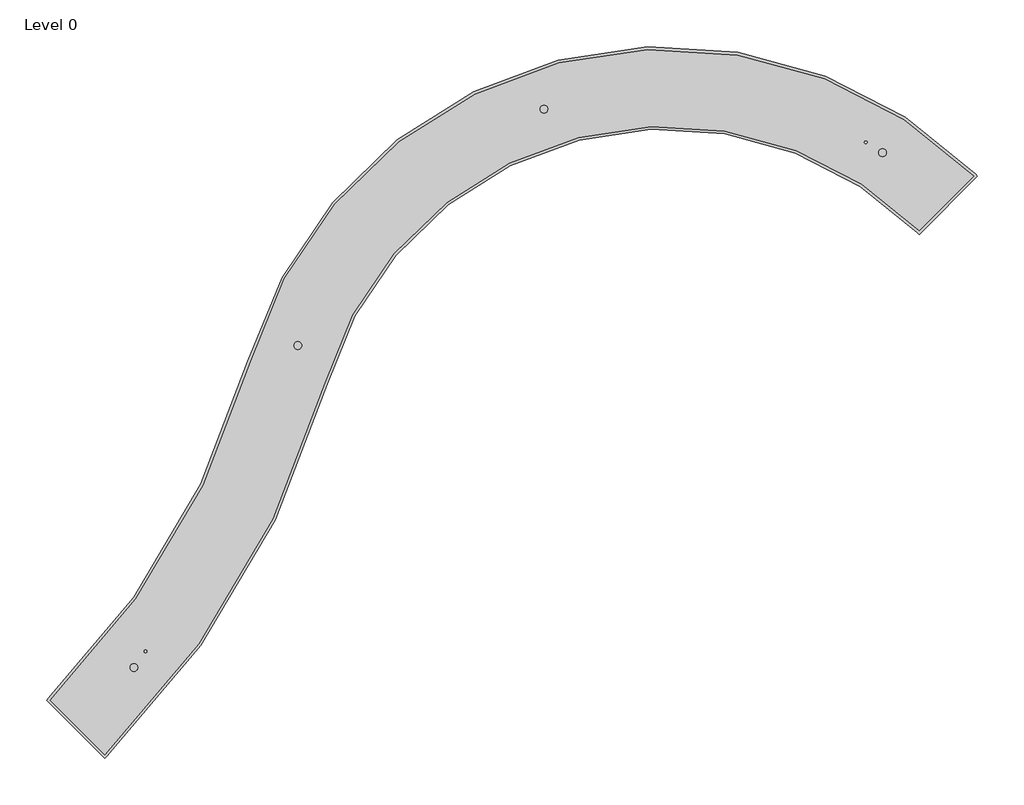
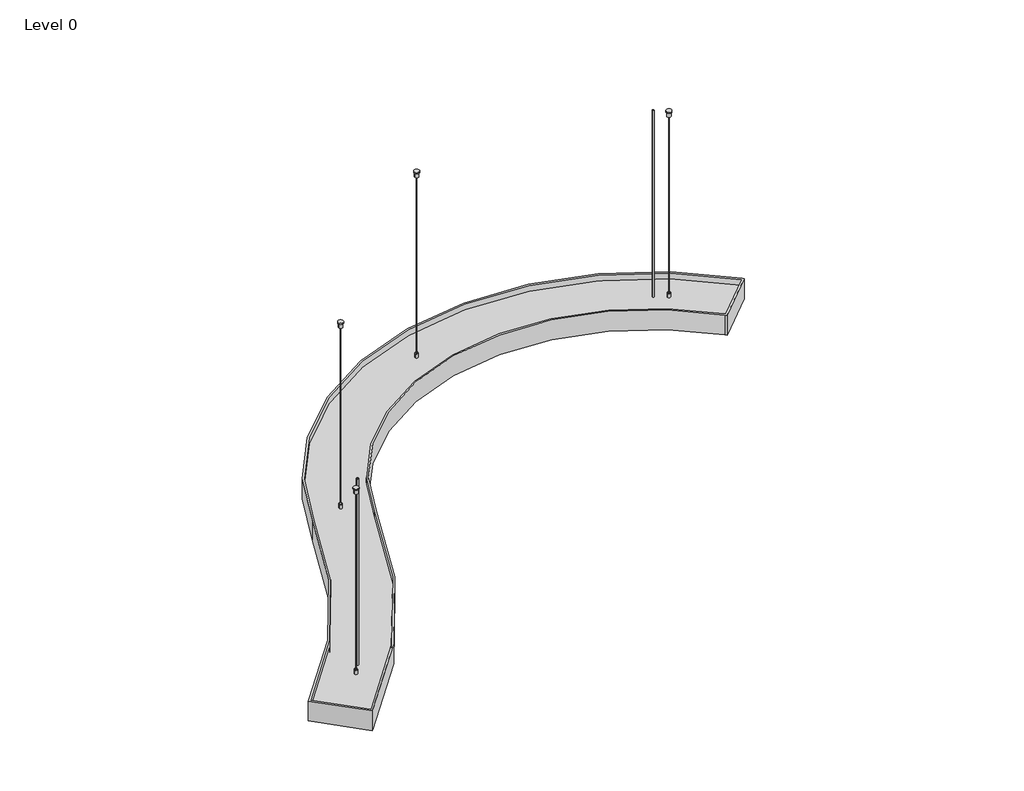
# One storey: 1 light fixture.
"""IFC4 building model written with IfcOpenShell, lengths in millimetres."""

import ifcopenshell
import ifcopenshell.guid

model = None  # the IFC model being written
_history = None  # IfcOwnerHistory: only IFC2X3 demands one
_inside = {}  # id of a spatial element -> (the spatial element, [elements in it])
_under = {}  # id of a project, library or spatial element -> (it, [spatial elements below it])
_declared = {}  # id of a project -> (the project, [libraries it declares])
_typed = {}  # id of a type object -> (the type object, [elements of that type])
_made_of = {}  # id of a material, layer set ... -> (it, [elements and type objects made of it])


def new_model(schema):
    """Start an empty IFC model of exactly this schema.

    Asked for "IFC4X3", IfcOpenShell would pick the latest addendum, in which some entities
    have other attributes; the version numbers below select the first issue.
    IFC2X3 requires an IfcOwnerHistory on every rooted entity: one is made here for all.
    """
    global model, _history
    if schema == "IFC4X3":
        model = ifcopenshell.file(schema_version=(4, 3, 0, 0))
    else:
        model = ifcopenshell.file(schema=schema)
    _inside.clear()
    _under.clear()
    _declared.clear()
    _typed.clear()
    _made_of.clear()
    _history = None
    if model.schema == "IFC2X3":
        org = make("IfcOrganization", Name="unknown")
        user = make(
            "IfcPersonAndOrganization",
            ThePerson=make("IfcPerson", FamilyName="unknown"),
            TheOrganization=org,
        )
        app = make(
            "IfcApplication",
            ApplicationDeveloper=org,
            Version="unknown",
            ApplicationFullName="unknown",
            ApplicationIdentifier="unknown",
        )
        _history = make(
            "IfcOwnerHistory",
            OwningUser=user,
            OwningApplication=app,
            ChangeAction="ADDED",
            CreationDate=0,
        )
    return model


def make(cls, **values):
    """One entity of the class cls with the attributes given. An attribute that is None is left unset."""
    return model.create_entity(
        cls, **{name: value for name, value in values.items() if value is not None}
    )


def rooted(cls, **values):
    """An entity with a GlobalId (a new one), such as an element, a storey or a relation."""
    return make(cls, GlobalId=ifcopenshell.guid.new(), OwnerHistory=_history, **values)


def si_unit(unit_type, name, prefix=None):
    """IfcSIUnit, for example si_unit("LENGTHUNIT", "METRE", prefix="MILLI")."""
    return make("IfcSIUnit", UnitType=unit_type, Prefix=prefix, Name=name)


def assignment(units):
    """IfcUnitAssignment: the units of a project."""
    return None if units is None else make("IfcUnitAssignment", Units=units)


def point(xyz):
    """IfcCartesianPoint."""
    return None if xyz is None else make("IfcCartesianPoint", Coordinates=xyz)


def direction(xyz):
    """IfcDirection."""
    return None if xyz is None else make("IfcDirection", DirectionRatios=xyz)


def frame(location, z_axis=None, x_axis=None):
    """IfcAxis2Placement3D, a coordinate frame: its origin and axes. An axis left out is left unset."""
    return make(
        "IfcAxis2Placement3D",
        Location=point(location),
        Axis=direction(z_axis),
        RefDirection=direction(x_axis),
    )


def frame_2d(location, x_axis=None):
    """IfcAxis2Placement2D, a coordinate frame in the plane: its origin and x axis."""
    return make(
        "IfcAxis2Placement2D", Location=point(location), RefDirection=direction(x_axis)
    )


def origin():
    """The frame at (0, 0, 0) with its axes left unset."""
    return frame((0.0, 0.0, 0.0))


def origin_with_axes():
    """The frame at (0, 0, 0) with the z axis (0, 0, 1) and the x axis (1, 0, 0) written out."""
    return frame((0.0, 0.0, 0.0), z_axis=(0.0, 0.0, 1.0), x_axis=(1.0, 0.0, 0.0))


def place(relative_to, where):
    """IfcLocalPlacement: puts the frame where relative to a parent placement (None: the world)."""
    return make(
        "IfcLocalPlacement", PlacementRelTo=relative_to, RelativePlacement=where
    )


def context(
    kind, dimensions, precision=None, world=None, true_north=None, identifier=None
):
    """IfcGeometricRepresentationContext, for example the 3D "Model" context."""
    return make(
        "IfcGeometricRepresentationContext",
        ContextIdentifier=identifier,
        ContextType=kind,
        CoordinateSpaceDimension=dimensions,
        Precision=precision,
        WorldCoordinateSystem=world,
        TrueNorth=true_north,
    )


def project(units=None, contexts=None):
    """IfcProject with its units and contexts."""
    return rooted(
        "IfcProject",
        Name="project",
        RepresentationContexts=contexts,
        UnitsInContext=assignment(units),
    )


def spatial(cls, under=None, at=None, **own):
    """A site, building, storey or space (cls), placed at a placement, below another one or the project."""
    s = rooted(cls, ObjectPlacement=at, **own)
    if under is not None:
        _under.setdefault(under.id(), (under, []))[1].append(s)
    return s


def polyline(points):
    """IfcPolyline through the points."""
    return make("IfcPolyline", Points=[point(p) for p in points])


def circle_curve(where, radius):
    """IfcCircle in the frame where."""
    return make("IfcCircle", Position=where, Radius=radius)


def trimmed(basis, trim1, trim2, sense, master):
    """IfcTrimmedCurve: the piece of a basis curve between two trims."""
    return make(
        "IfcTrimmedCurve",
        BasisCurve=basis,
        Trim1=trim1,
        Trim2=trim2,
        SenseAgreement=sense,
        MasterRepresentation=master,
    )


def segment(curve, same_sense, transition):
    """IfcCompositeCurveSegment."""
    return make(
        "IfcCompositeCurveSegment",
        Transition=transition,
        SameSense=same_sense,
        ParentCurve=curve,
    )


def composite_curve(segments, self_intersect=None):
    """IfcCompositeCurve: segments joined end to end."""
    return make("IfcCompositeCurve", Segments=segments, SelfIntersect=self_intersect)


def outline(outer, holes=None, kind="AREA"):
    """IfcArbitraryClosedProfileDef: a profile drawn as a closed curve; with holes, ...WithVoids."""
    if holes is None:
        return make("IfcArbitraryClosedProfileDef", ProfileType=kind, OuterCurve=outer)
    return make(
        "IfcArbitraryProfileDefWithVoids",
        ProfileType=kind,
        OuterCurve=outer,
        InnerCurves=holes,
    )


def extrude(swept, where, along, depth):
    """IfcExtrudedAreaSolid: the profile swept, set in the frame where, extruded along a direction by depth."""
    return make(
        "IfcExtrudedAreaSolid",
        SweptArea=swept,
        Position=where,
        ExtrudedDirection=direction(along),
        Depth=depth,
    )


def shape(context_of_items, identifier, shape_type, items):
    """IfcShapeRepresentation: the items that make up one representation, for example the "Body"."""
    return make(
        "IfcShapeRepresentation",
        ContextOfItems=context_of_items,
        RepresentationIdentifier=identifier,
        RepresentationType=shape_type,
        Items=items,
    )


def source(mapping_origin, context_of_items, identifier, shape_type, items):
    """IfcRepresentationMap: a shape defined once, which mapped items show again and again."""
    return make(
        "IfcRepresentationMap",
        MappingOrigin=mapping_origin,
        MappedRepresentation=shape(context_of_items, identifier, shape_type, items),
    )


def transform(
    local_origin,
    x_axis=None,
    y_axis=None,
    z_axis=None,
    scale=None,
    scale2=None,
    scale3=None,
    uniform=True,
):
    """IfcCartesianTransformationOperator3D, or its non-uniform kind. x_axis, y_axis, z_axis: its Axis1, 2, 3."""
    if uniform:
        return make(
            "IfcCartesianTransformationOperator3D",
            Axis1=direction(x_axis),
            Axis2=direction(y_axis),
            LocalOrigin=point(local_origin),
            Scale=scale,
            Axis3=direction(z_axis),
        )
    return make(
        "IfcCartesianTransformationOperator3DnonUniform",
        Axis1=direction(x_axis),
        Axis2=direction(y_axis),
        LocalOrigin=point(local_origin),
        Scale=scale,
        Axis3=direction(z_axis),
        Scale2=scale2,
        Scale3=scale3,
    )


def mapped(mapping_source, mapping_target):
    """IfcMappedItem: shows the shape of a source again, moved by a transform."""
    return make(
        "IfcMappedItem", MappingSource=mapping_source, MappingTarget=mapping_target
    )


def made_of(thing, what):
    """Note that an element or type object is made of a material, layer set ...; save() writes the relation."""
    if what is not None:
        _made_of.setdefault(what.id(), (what, []))[1].append(thing)
    return thing


def element(
    cls,
    number,
    at=None,
    inside=None,
    cuts=None,
    type_object=None,
    material=None,
    context=None,
    identifier="Body",
    shape_type=None,
    held_by="IfcProductDefinitionShape",
    body=None,
    shapes=None,
    **own,
):
    """One element of the class cls, such as IfcWall. Its Tag is "e" and its number.

    at: its placement. inside: the storey or other place that contains it. cuts: it is an
    opening in that element (IfcRelVoidsElement). A single representation is given by context,
    identifier, shape_type and body (its items); several are given by shapes. held_by: the class
    of the entity that holds the representations. save() writes the other relations.
    """
    e = rooted(cls, Tag="e%d" % number, ObjectPlacement=at, **own)
    if body is not None:
        shapes = [shape(context, identifier, shape_type, body)]
    if shapes is not None:
        e.Representation = make(held_by, Representations=shapes)
    if inside is not None:
        _inside.setdefault(inside.id(), (inside, []))[1].append(e)
    if cuts is not None:
        rooted(
            "IfcRelVoidsElement", RelatingBuildingElement=cuts, RelatedOpeningElement=e
        )
    if type_object is not None:
        _typed.setdefault(type_object.id(), (type_object, []))[1].append(e)
    return made_of(e, material)


def aggregate(whole, parts):
    """IfcRelAggregates: a whole, such as a stair, and the parts it consists of."""
    return rooted("IfcRelAggregates", RelatingObject=whole, RelatedObjects=parts)


def save(model, path):
    """Write the relations noted so far, then the file.

    IfcRelAggregates (storeys below a building ...), IfcRelContainedInSpatialStructure (elements
    in a storey), IfcRelDefinesByType, IfcRelAssociatesMaterial and IfcRelDeclares: one each for
    every whole, place, type object, material and project.
    """
    for whole, parts in _under.values():
        aggregate(whole, parts)
    for where, things in _inside.values():
        rooted(
            "IfcRelContainedInSpatialStructure",
            RelatedElements=things,
            RelatingStructure=where,
        )
    for kind, things in _typed.values():
        rooted("IfcRelDefinesByType", RelatedObjects=things, RelatingType=kind)
    for what, things in _made_of.values():
        rooted("IfcRelAssociatesMaterial", RelatedObjects=things, RelatingMaterial=what)
    for by, libraries in _declared.values():
        rooted("IfcRelDeclares", RelatingContext=by, RelatedDefinitions=libraries)
    model.write(path)


def silver_anodized_3000_k_5960_lm_fe325a2c(model_context):
    return source(origin(), model_context, "Body", "SweptSolid", [
        extrude(outline(composite_curve([segment(trimmed(circle_curve(frame_2d((672.9591709, -453.7760206)), 1.75), [point((674.7091709, -453.7760206))], [point((671.2091709, -453.7760206))], False, "CARTESIAN"), True, "CONTINUOUS"), segment(trimmed(circle_curve(frame_2d((672.9591709, -453.7760206)), 1.75), [point((671.2091709, -453.7760206))], [point((674.7091709, -453.7760206))], False, "CARTESIAN"), True, "CONTINUOUS")], self_intersect=False)), frame((0.0, 0.0, 500.5), z_axis=(0.0, 0.0, 1.0), x_axis=(1.0, 0.0, 0.0)), (0.0, 0.0, 1.0), 3.5),
        extrude(outline(composite_curve([segment(trimmed(circle_curve(frame_2d((58.0324122, -532.928288)), 1.75), [point((59.7824122, -532.928288))], [point((56.2824122, -532.928288))], False, "CARTESIAN"), True, "CONTINUOUS"), segment(trimmed(circle_curve(frame_2d((58.0324122, -532.928288)), 1.75), [point((56.2824122, -532.928288))], [point((59.7824122, -532.928288))], False, "CARTESIAN"), True, "CONTINUOUS")], self_intersect=False)), frame((0.0, 0.0, 500.5), z_axis=(0.0, 0.0, 1.0), x_axis=(1.0, 0.0, 0.0)), (0.0, 0.0, 1.0), 3.5),
        extrude(outline(composite_curve([segment(trimmed(circle_curve(frame_2d((-389.0451569, -103.1934485)), 1.75), [point((-387.2951569, -103.1934485))], [point((-390.7951569, -103.1934485))], False, "CARTESIAN"), True, "CONTINUOUS"), segment(trimmed(circle_curve(frame_2d((-389.0451569, -103.1934485)), 1.75), [point((-390.7951569, -103.1934485))], [point((-387.2951569, -103.1934485))], False, "CARTESIAN"), True, "CONTINUOUS")], self_intersect=False)), frame((0.0, 0.0, 500.5), z_axis=(0.0, 0.0, 1.0), x_axis=(1.0, 0.0, 0.0)), (0.0, 0.0, 1.0), 3.5),
        extrude(outline(composite_curve([segment(trimmed(circle_curve(frame_2d((-686.7353542, 481.8418012)), 1.75), [point((-684.9853542, 481.8418012))], [point((-688.4853542, 481.8418012))], False, "CARTESIAN"), True, "CONTINUOUS"), segment(trimmed(circle_curve(frame_2d((-686.7353542, 481.8418012)), 1.75), [point((-688.4853542, 481.8418012))], [point((-684.9853542, 481.8418012))], False, "CARTESIAN"), True, "CONTINUOUS")], self_intersect=False)), frame((0.0, 0.0, 500.5), z_axis=(0.0, 0.0, 1.0), x_axis=(1.0, 0.0, 0.0)), (0.0, 0.0, 1.0), 3.5),
        extrude(outline(composite_curve([segment(trimmed(circle_curve(frame_2d((672.9591709, -453.7760206)), 5.0), [point((677.9591709, -453.7760206))], [point((667.9591709, -453.7760206))], False, "CARTESIAN"), True, "CONTINUOUS"), segment(trimmed(circle_curve(frame_2d((672.9591709, -453.7760206)), 5.0), [point((667.9591709, -453.7760206))], [point((677.9591709, -453.7760206))], False, "CARTESIAN"), True, "CONTINUOUS")], self_intersect=False)), frame((0.0, 0.0, 3.0), z_axis=(0.0, 0.0, 1.0), x_axis=(1.0, 0.0, 0.0)), (0.0, 0.0, 1.0), 12.0),
        extrude(outline(composite_curve([segment(trimmed(circle_curve(frame_2d((58.0324122, -532.928288)), 5.0), [point((63.0324122, -532.928288))], [point((53.0324122, -532.928288))], False, "CARTESIAN"), True, "CONTINUOUS"), segment(trimmed(circle_curve(frame_2d((58.0324122, -532.928288)), 5.0), [point((53.0324122, -532.928288))], [point((63.0324122, -532.928288))], False, "CARTESIAN"), True, "CONTINUOUS")], self_intersect=False)), frame((0.0, 0.0, 3.0), z_axis=(0.0, 0.0, 1.0), x_axis=(1.0, 0.0, 0.0)), (0.0, 0.0, 1.0), 12.0),
        extrude(outline(composite_curve([segment(trimmed(circle_curve(frame_2d((-389.0451569, -103.1934485)), 5.0), [point((-384.0451569, -103.1934485))], [point((-394.0451569, -103.1934485))], False, "CARTESIAN"), True, "CONTINUOUS"), segment(trimmed(circle_curve(frame_2d((-389.0451569, -103.1934485)), 5.0), [point((-394.0451569, -103.1934485))], [point((-384.0451569, -103.1934485))], False, "CARTESIAN"), True, "CONTINUOUS")], self_intersect=False)), frame((0.0, 0.0, 3.0), z_axis=(0.0, 0.0, 1.0), x_axis=(1.0, 0.0, 0.0)), (0.0, 0.0, 1.0), 12.0),
        extrude(outline(composite_curve([segment(trimmed(circle_curve(frame_2d((-686.7353542, 481.8418012)), 5.0), [point((-681.7353542, 481.8418012))], [point((-691.7353542, 481.8418012))], False, "CARTESIAN"), True, "CONTINUOUS"), segment(trimmed(circle_curve(frame_2d((-686.7353542, 481.8418012)), 5.0), [point((-691.7353542, 481.8418012))], [point((-681.7353542, 481.8418012))], False, "CARTESIAN"), True, "CONTINUOUS")], self_intersect=False)), frame((0.0, 0.0, 3.0), z_axis=(0.0, 0.0, 1.0), x_axis=(1.0, 0.0, 0.0)), (0.0, 0.0, 1.0), 12.0),
        extrude(outline(composite_curve([segment(trimmed(circle_curve(frame_2d((642.6195188, -472.545118)), 2.5), [point((645.1195188, -472.545118))], [point((640.1195188, -472.545118))], False, "CARTESIAN"), True, "CONTINUOUS"), segment(trimmed(circle_curve(frame_2d((642.6195188, -472.545118)), 2.5), [point((640.1195188, -472.545118))], [point((645.1195188, -472.545118))], False, "CARTESIAN"), True, "CONTINUOUS")], self_intersect=False)), origin_with_axes(), (0.0, 0.0, 1.0), 516.0),
        extrude(outline(composite_curve([segment(trimmed(circle_curve(frame_2d((-665.6709543, 452.5331137)), 2.5), [point((-663.1709543, 452.5331137))], [point((-668.1709543, 452.5331137))], False, "CARTESIAN"), True, "CONTINUOUS"), segment(trimmed(circle_curve(frame_2d((-665.6709543, 452.5331137)), 2.5), [point((-668.1709543, 452.5331137))], [point((-663.1709543, 452.5331137))], False, "CARTESIAN"), True, "CONTINUOUS")], self_intersect=False)), origin_with_axes(), (0.0, 0.0, 1.0), 516.0),
        extrude(outline(composite_curve([segment(polyline([(-838.3688522, 541.0675454), (-739.3739028, 640.0624948)]), True, "CONTINUOUS"), segment(trimmed(circle_curve(frame_2d((-1853.9001753, -474.4637777)), 1576.1781702), [point((-739.3739028, 640.0624948))], [point((-340.279061, -34.8176171))], False, "CARTESIAN"), True, "CONTINUOUS"), segment(trimmed(circle_curve(frame_2d((281.522262, 145.7907014)), 647.5), [point((-340.279061, -34.8176171))], [point((739.3739028, -312.0609394))], True, "CARTESIAN"), True, "CONTINUOUS"), segment(polyline([(739.3739028, -312.0609394), (838.3688522, -411.0558887)]), True, "CONTINUOUS"), segment(trimmed(circle_curve(frame_2d((281.522262, 145.7907014)), 787.5), [point((838.3688522, -411.0558887))], [point((-474.7225903, -73.8680643))], False, "CARTESIAN"), True, "CONTINUOUS"), segment(trimmed(circle_curve(frame_2d((-1853.9001753, -474.4637777)), 1436.1781702), [point((-474.7225903, -73.8680643))], [point((-838.3688522, 541.0675454))], True, "CARTESIAN"), True, "CONTINUOUS")], self_intersect=False)), frame((0.0, 0.0, 516.0), z_axis=(0.0, 0.0, 1.0), x_axis=(1.0, 0.0, 0.0)), (0.0, 0.0, 1.0), 2.0),
        extrude(outline(composite_curve([segment(polyline([(-838.3688522, 541.0675454), (-739.3739028, 640.0624948)]), True, "CONTINUOUS"), segment(trimmed(circle_curve(frame_2d((-1853.9001753, -474.4637777)), 1576.1781702), [point((-739.3739028, 640.0624948))], [point((-340.279061, -34.8176171))], False, "CARTESIAN"), True, "CONTINUOUS"), segment(trimmed(circle_curve(frame_2d((281.522262, 145.7907014)), 647.5), [point((-340.279061, -34.8176171))], [point((739.3739028, -312.0609394))], True, "CARTESIAN"), True, "CONTINUOUS"), segment(polyline([(739.3739028, -312.0609394), (838.3688522, -411.0558887)]), True, "CONTINUOUS"), segment(trimmed(circle_curve(frame_2d((281.522262, 145.7907014)), 787.5), [point((838.3688522, -411.0558887))], [point((-474.7225903, -73.8680643))], False, "CARTESIAN"), True, "CONTINUOUS"), segment(trimmed(circle_curve(frame_2d((-1853.9001753, -474.4637777)), 1436.1781702), [point((-474.7225903, -73.8680643))], [point((-838.3688522, 541.0675454))], True, "CARTESIAN"), True, "CONTINUOUS")], self_intersect=False)), frame((0.0, 0.0, 551.0), z_axis=(0.0, 0.0, 1.0), x_axis=(1.0, 0.0, 0.0)), (0.0, 0.0, 1.0), 2.0),
        extrude(outline(composite_curve([segment(polyline([(-841.9043861, 537.5320115), (-845.43992, 541.0675454), (-739.3739028, 647.1335626), (-735.8383689, 643.5980287)]), True, "CONTINUOUS"), segment(trimmed(circle_curve(frame_2d((-1853.9001753, -474.4637777)), 1581.1781702), [point((-735.8383689, 643.5980287))], [point((-335.4775064, -33.4229582))], False, "CARTESIAN"), True, "CONTINUOUS"), segment(trimmed(circle_curve(frame_2d((281.522262, 145.7907014)), 642.5), [point((-335.4775064, -33.4229582))], [point((735.8383689, -308.5254055))], True, "CARTESIAN"), True, "CONTINUOUS"), segment(polyline([(735.8383689, -308.5254055), (739.3739028, -304.9898716), (845.43992, -411.0558887), (841.9043861, -414.5914226)]), True, "CONTINUOUS"), segment(trimmed(circle_curve(frame_2d((281.522262, 145.7907014)), 792.5), [point((841.9043861, -414.5914226))], [point((-479.5241449, -75.2627231))], False, "CARTESIAN"), True, "CONTINUOUS"), segment(trimmed(circle_curve(frame_2d((-1853.9001753, -474.4637777)), 1431.1781702), [point((-479.5241449, -75.2627231))], [point((-841.9043861, 537.5320115))], True, "CARTESIAN"), True, "CONTINUOUS")], self_intersect=False), holes=[composite_curve([segment(polyline([(-739.3739028, 640.0624948), (-838.3688522, 541.0675454)]), True, "CONTINUOUS"), segment(trimmed(circle_curve(frame_2d((-1853.9001753, -474.4637777)), 1436.1781702), [point((-838.3688522, 541.0675454))], [point((-474.7225903, -73.8680643))], False, "CARTESIAN"), True, "CONTINUOUS"), segment(trimmed(circle_curve(frame_2d((281.522262, 145.7907014)), 787.5), [point((-474.7225903, -73.8680643))], [point((838.3688522, -411.0558887))], True, "CARTESIAN"), True, "CONTINUOUS"), segment(polyline([(838.3688522, -411.0558887), (739.3739028, -312.0609394)]), True, "CONTINUOUS"), segment(trimmed(circle_curve(frame_2d((281.522262, 145.7907014)), 647.5), [point((739.3739028, -312.0609394))], [point((-340.279061, -34.8176171))], False, "CARTESIAN"), True, "CONTINUOUS"), segment(trimmed(circle_curve(frame_2d((-1853.9001753, -474.4637777)), 1576.1781702), [point((-340.279061, -34.8176171))], [point((-739.3739028, 640.0624948))], True, "CARTESIAN"), True, "CONTINUOUS")], self_intersect=False)]), frame((0.0, 0.0, 500.0), z_axis=(0.0, 0.0, 1.0), x_axis=(1.0, 0.0, 0.0)), (0.0, 0.0, 1.0), 55.0),
        extrude(outline(composite_curve([segment(trimmed(circle_curve(frame_2d((672.9591709, -453.7760206)), 0.5), [point((673.4591709, -453.7760206))], [point((672.4591709, -453.7760206))], False, "CARTESIAN"), True, "CONTINUOUS"), segment(trimmed(circle_curve(frame_2d((672.9591709, -453.7760206)), 0.5), [point((672.4591709, -453.7760206))], [point((673.4591709, -453.7760206))], False, "CARTESIAN"), True, "CONTINUOUS")], self_intersect=False)), frame((0.0, 0.0, 15.0), z_axis=(0.0, 0.0, 1.0), x_axis=(1.0, 0.0, 0.0)), (0.0, 0.0, 1.0), 485.5),
        extrude(outline(composite_curve([segment(trimmed(circle_curve(frame_2d((58.0324122, -532.928288)), 0.5), [point((58.5324122, -532.928288))], [point((57.5324122, -532.928288))], False, "CARTESIAN"), True, "CONTINUOUS"), segment(trimmed(circle_curve(frame_2d((58.0324122, -532.928288)), 0.5), [point((57.5324122, -532.928288))], [point((58.5324122, -532.928288))], False, "CARTESIAN"), True, "CONTINUOUS")], self_intersect=False)), frame((0.0, 0.0, 15.0), z_axis=(0.0, 0.0, 1.0), x_axis=(1.0, 0.0, 0.0)), (0.0, 0.0, 1.0), 485.5),
        extrude(outline(composite_curve([segment(trimmed(circle_curve(frame_2d((-389.0451569, -103.1934485)), 0.5), [point((-388.5451569, -103.1934485))], [point((-389.5451569, -103.1934485))], False, "CARTESIAN"), True, "CONTINUOUS"), segment(trimmed(circle_curve(frame_2d((-389.0451569, -103.1934485)), 0.5), [point((-389.5451569, -103.1934485))], [point((-388.5451569, -103.1934485))], False, "CARTESIAN"), True, "CONTINUOUS")], self_intersect=False)), frame((0.0, 0.0, 15.0), z_axis=(0.0, 0.0, 1.0), x_axis=(1.0, 0.0, 0.0)), (0.0, 0.0, 1.0), 485.5),
        extrude(outline(composite_curve([segment(trimmed(circle_curve(frame_2d((-686.7353542, 481.8418012)), 0.5), [point((-686.2353542, 481.8418012))], [point((-687.2353542, 481.8418012))], False, "CARTESIAN"), True, "CONTINUOUS"), segment(trimmed(circle_curve(frame_2d((-686.7353542, 481.8418012)), 0.5), [point((-687.2353542, 481.8418012))], [point((-686.2353542, 481.8418012))], False, "CARTESIAN"), True, "CONTINUOUS")], self_intersect=False)), frame((0.0, 0.0, 15.0), z_axis=(0.0, 0.0, 1.0), x_axis=(1.0, 0.0, 0.0)), (0.0, 0.0, 1.0), 485.5),
        extrude(outline(composite_curve([segment(trimmed(circle_curve(frame_2d((-686.7353542, 481.8418012)), 4.0), [point((-682.7353542, 481.8418012))], [point((-690.7353542, 481.8418012))], False, "CARTESIAN"), True, "CONTINUOUS"), segment(trimmed(circle_curve(frame_2d((-686.7353542, 481.8418012)), 4.0), [point((-690.7353542, 481.8418012))], [point((-682.7353542, 481.8418012))], False, "CARTESIAN"), True, "CONTINUOUS")], self_intersect=False)), frame((0.0, 0.0, 504.0), z_axis=(0.0, 0.0, 1.0), x_axis=(1.0, 0.0, 0.0)), (0.0, 0.0, 1.0), 12.0),
        extrude(outline(composite_curve([segment(trimmed(circle_curve(frame_2d((-389.0451569, -103.1934485)), 4.0), [point((-385.0451569, -103.1934485))], [point((-393.0451569, -103.1934485))], False, "CARTESIAN"), True, "CONTINUOUS"), segment(trimmed(circle_curve(frame_2d((-389.0451569, -103.1934485)), 4.0), [point((-393.0451569, -103.1934485))], [point((-385.0451569, -103.1934485))], False, "CARTESIAN"), True, "CONTINUOUS")], self_intersect=False)), frame((0.0, 0.0, 504.0), z_axis=(0.0, 0.0, 1.0), x_axis=(1.0, 0.0, 0.0)), (0.0, 0.0, 1.0), 12.0),
        extrude(outline(composite_curve([segment(trimmed(circle_curve(frame_2d((58.0324122, -532.928288)), 4.0), [point((62.0324122, -532.928288))], [point((54.0324122, -532.928288))], False, "CARTESIAN"), True, "CONTINUOUS"), segment(trimmed(circle_curve(frame_2d((58.0324122, -532.928288)), 4.0), [point((54.0324122, -532.928288))], [point((62.0324122, -532.928288))], False, "CARTESIAN"), True, "CONTINUOUS")], self_intersect=False)), frame((0.0, 0.0, 504.0), z_axis=(0.0, 0.0, 1.0), x_axis=(1.0, 0.0, 0.0)), (0.0, 0.0, 1.0), 12.0),
        extrude(outline(composite_curve([segment(trimmed(circle_curve(frame_2d((672.9591709, -453.7760206)), 4.0), [point((676.9591709, -453.7760206))], [point((668.9591709, -453.7760206))], False, "CARTESIAN"), True, "CONTINUOUS"), segment(trimmed(circle_curve(frame_2d((672.9591709, -453.7760206)), 4.0), [point((668.9591709, -453.7760206))], [point((676.9591709, -453.7760206))], False, "CARTESIAN"), True, "CONTINUOUS")], self_intersect=False)), frame((0.0, 0.0, 504.0), z_axis=(0.0, 0.0, 1.0), x_axis=(1.0, 0.0, 0.0)), (0.0, 0.0, 1.0), 12.0),
        extrude(outline(composite_curve([segment(trimmed(circle_curve(frame_2d((672.9591709, -453.7760206)), 7.0), [point((679.9591709, -453.7760206))], [point((665.9591709, -453.7760206))], False, "CARTESIAN"), True, "CONTINUOUS"), segment(trimmed(circle_curve(frame_2d((672.9591709, -453.7760206)), 7.0), [point((665.9591709, -453.7760206))], [point((679.9591709, -453.7760206))], False, "CARTESIAN"), True, "CONTINUOUS")], self_intersect=False)), origin_with_axes(), (0.0, 0.0, 1.0), 3.0),
        extrude(outline(composite_curve([segment(trimmed(circle_curve(frame_2d((58.0324122, -532.928288)), 7.0), [point((65.0324122, -532.928288))], [point((51.0324122, -532.928288))], False, "CARTESIAN"), True, "CONTINUOUS"), segment(trimmed(circle_curve(frame_2d((58.0324122, -532.928288)), 7.0), [point((51.0324122, -532.928288))], [point((65.0324122, -532.928288))], False, "CARTESIAN"), True, "CONTINUOUS")], self_intersect=False)), origin_with_axes(), (0.0, 0.0, 1.0), 3.0),
        extrude(outline(composite_curve([segment(trimmed(circle_curve(frame_2d((-389.0451569, -103.1934485)), 7.0), [point((-382.0451569, -103.1934485))], [point((-396.0451569, -103.1934485))], False, "CARTESIAN"), True, "CONTINUOUS"), segment(trimmed(circle_curve(frame_2d((-389.0451569, -103.1934485)), 7.0), [point((-396.0451569, -103.1934485))], [point((-382.0451569, -103.1934485))], False, "CARTESIAN"), True, "CONTINUOUS")], self_intersect=False)), origin_with_axes(), (0.0, 0.0, 1.0), 3.0),
        extrude(outline(composite_curve([segment(trimmed(circle_curve(frame_2d((-686.7353542, 481.8418012)), 7.0), [point((-679.7353542, 481.8418012))], [point((-693.7353542, 481.8418012))], False, "CARTESIAN"), True, "CONTINUOUS"), segment(trimmed(circle_curve(frame_2d((-686.7353542, 481.8418012)), 7.0), [point((-693.7353542, 481.8418012))], [point((-679.7353542, 481.8418012))], False, "CARTESIAN"), True, "CONTINUOUS")], self_intersect=False)), origin_with_axes(), (0.0, 0.0, 1.0), 3.0),
    ])


model = new_model("IFC4")

# Units and contexts
model_context = context("Model", 3, world=origin())
ifc_project = project(units=[si_unit("LENGTHUNIT", "METRE", prefix="MILLI")], contexts=[model_context])

# Site, building, storey
site = spatial("IfcSite", under=ifc_project)
building = spatial("IfcBuilding", under=site)
storey = spatial("IfcBuildingStorey", under=building, Name="Level 0", Elevation=0.0)

# Light fixture
placement = place(None, origin())
silver_anodized_3000_k_5960_lm_shape = silver_anodized_3000_k_5960_lm_fe325a2c(model_context)
element("IfcLightFixture", 1, ObjectType="KLUŚ - MIFOR - MI-SNAKE-03 : Silver anodized - 3000 K - 5960 lm", at=placement, inside=storey, context=model_context, shape_type="MappedRepresentation", body=[
    mapped(silver_anodized_3000_k_5960_lm_shape, transform((0.0, 0.0, 555.0), x_axis=(1.0, 0.0, 0.0), y_axis=(0.0, -1.0, 0.0), z_axis=(0.0, 0.0, -1.0))),
])

save(model, "model.ifc")
